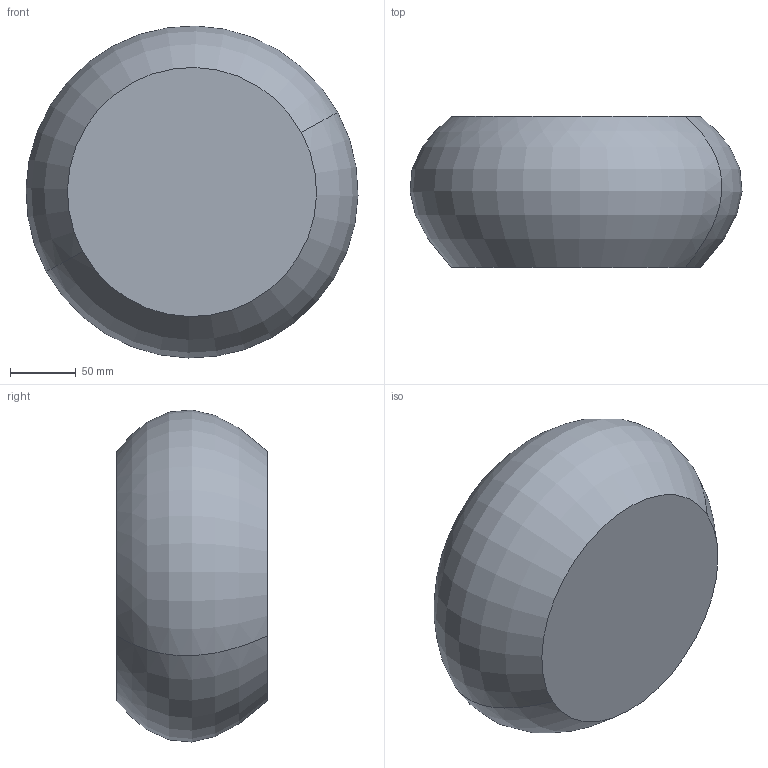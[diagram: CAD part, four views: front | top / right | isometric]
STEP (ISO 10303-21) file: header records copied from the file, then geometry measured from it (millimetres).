
FILE_DESCRIPTION(('CATIA V5 STEP Exchange'),'2;1');
FILE_NAME('C:\_Andres\UNIVERSIDAD\IQS\ASIGNATURAS\DAO\EXF\EXF-15161c\1original\Elvira_Arias_Ej10-decora_v5.stp','2016-03-04T22:24:11+00:00',('none'),('none'),'CATIA Version 5 Release 20 SP 1 (IN-10)','CATIA V5 STEP AP203','none');
FILE_SCHEMA(('CONFIG_CONTROL_DESIGN'));
Length unit declared in the file: millimetre
Products named in the file (1): Elvira_Arias_Ej10-decora_v5
Bounding box: 253.16 x 115 x 253.16 mm (x, y, z)
Volume: 4908301 mm3; surface area: 154531.9 mm2
Topology: 1 solids, 1 shells, 4 faces, 6 edges, 4 vertices
Faces by surface type: revolution 2, plane 2
Entity records: 166 total; most frequent: CARTESIAN_POINT 50, DIRECTION 12, ORIENTED_EDGE 12, AXIS2_PLACEMENT_3D 8, EDGE_CURVE 6, ADVANCED_FACE 4, B_SPLINE_CURVE_WITH_KNOTS 4, CC_DESIGN_PERSON_AND_ORGANIZATION_ASSIGNMENT 4
